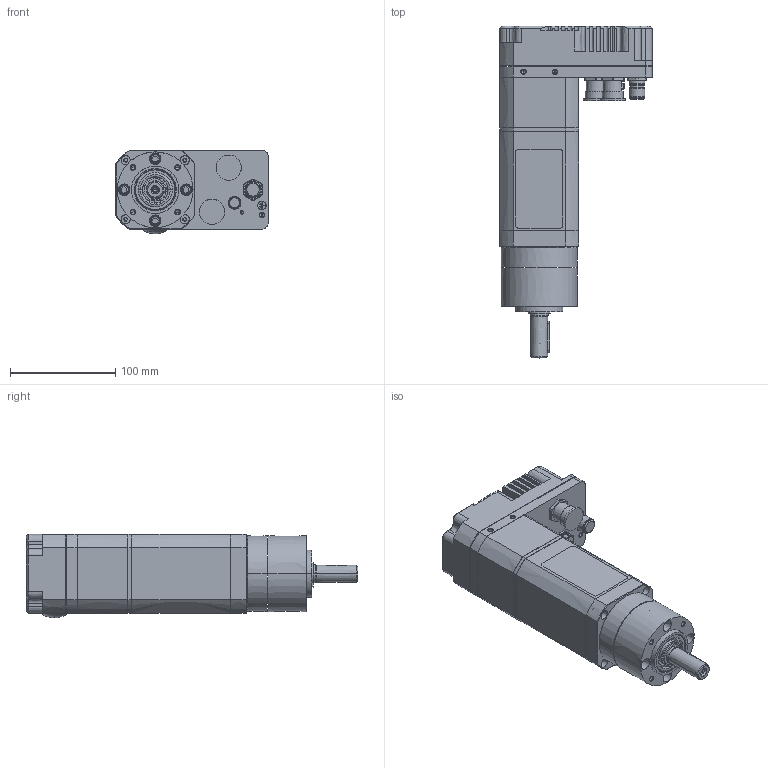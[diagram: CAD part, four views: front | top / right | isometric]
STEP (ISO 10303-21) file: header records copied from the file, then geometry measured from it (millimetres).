
FILE_DESCRIPTION((''),'2;1');
FILE_NAME('8036D1_1STAGE','2018-09-18T',('alecma1'),('CROUZET-AUTOMATISMES'),'CREO PARAMETRIC BY PTC INC, 2017170','CREO PARAMETRIC BY PTC INC, 2017170','');
FILE_SCHEMA(('AP203_CONFIGURATION_CONTROLLED_3D_DESIGN_OF_MECHANICAL_PARTS_AND_ASSEMBLIES_MIM_LF { 1 0 10303 403 2 1 2 }'));
Products named in the file (1): 8036D1_1STAGE
Bounding box: 145 x 315.8 x 79.7 mm (x, y, z)
Surface area: 154666.7 mm2 (no closed solid volume)
Topology: 0 solids, 0 shells, 761 faces, 3955 edges, 3899 vertices
Faces by surface type: bspline 723, torus 34, sphere 4
Entity records: 75237 total; most frequent: CARTESIAN_POINT 33431, DIRECTION 6044, TRIMMED_CURVE 5107, VECTOR 4271, LINE 4271, DEFINITIONAL_REPRESENTATION 3863, PCURVE 3863, COMPOSITE_CURVE_SEGMENT 3863
